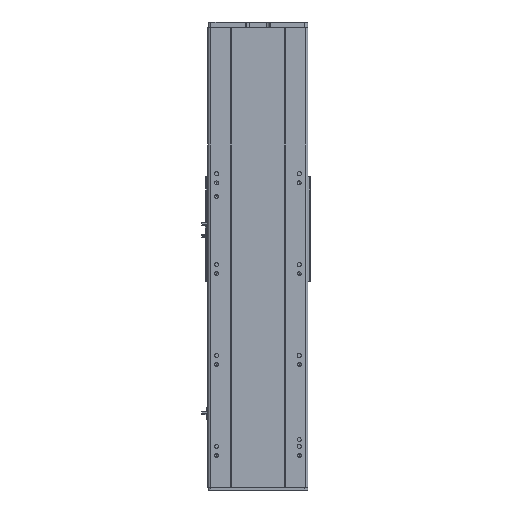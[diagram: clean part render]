
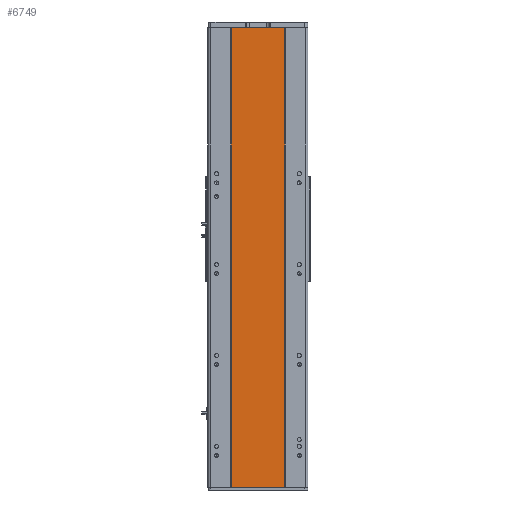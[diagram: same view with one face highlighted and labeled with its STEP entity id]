
A CAD part, front view. The second image highlights one B-rep face of the part: STEP entity #6749.
In plain terms, the highlighted planar face has unit normal (0, -1, 0).
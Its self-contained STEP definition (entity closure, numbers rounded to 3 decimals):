
#85 = VECTOR ( 'NONE', #29625, 1000. ) ;
#2595 = PLANE ( 'NONE',  #33679 ) ;
#2818 = VERTEX_POINT ( 'NONE', #31318 ) ;
#2870 = EDGE_LOOP ( 'NONE', ( #35431, #26564, #24772, #20046 ) ) ;
#2898 = DIRECTION ( 'NONE',  ( 0., 0., -1. ) ) ;
#3167 = LINE ( 'NONE', #17516, #34857 ) ;
#5333 = CARTESIAN_POINT ( 'NONE',  ( 59., 1., 505.5 ) ) ;
#5923 = EDGE_CURVE ( 'NONE', #23184, #10612, #31377, .T. ) ;
#6749 = ADVANCED_FACE ( 'NONE', ( #33930 ), #2595, .F. ) ;
#7013 = CARTESIAN_POINT ( 'NONE',  ( -59., 1., 505.5 ) ) ;
#9375 = CARTESIAN_POINT ( 'NONE',  ( -59., 1., 505.5 ) ) ;
#9680 = DIRECTION ( 'NONE',  ( 1., 0., 0. ) ) ;
#9919 = CARTESIAN_POINT ( 'NONE',  ( -59., 1., -505.5 ) ) ;
#10364 = EDGE_CURVE ( 'NONE', #23184, #2818, #11746, .T. ) ;
#10612 = VERTEX_POINT ( 'NONE', #5333 ) ;
#11746 = LINE ( 'NONE', #25607, #27110 ) ;
#13297 = EDGE_CURVE ( 'NONE', #2818, #35877, #32659, .T. ) ;
#15284 = CARTESIAN_POINT ( 'NONE',  ( 59., 1., -505.5 ) ) ;
#16467 = CARTESIAN_POINT ( 'NONE',  ( -59., 1., 505.5 ) ) ;
#17516 = CARTESIAN_POINT ( 'NONE',  ( 59., 1., 505.5 ) ) ;
#20046 = ORIENTED_EDGE ( 'NONE', *, *, #10364, .T. ) ;
#22246 = DIRECTION ( 'NONE',  ( 0., 1., 0. ) ) ;
#23184 = VERTEX_POINT ( 'NONE', #9375 ) ;
#24772 = ORIENTED_EDGE ( 'NONE', *, *, #5923, .F. ) ;
#25607 = CARTESIAN_POINT ( 'NONE',  ( -59., 1., 505.5 ) ) ;
#26564 = ORIENTED_EDGE ( 'NONE', *, *, #28579, .F. ) ;
#27110 = VECTOR ( 'NONE', #2898, 1000. ) ;
#28579 = EDGE_CURVE ( 'NONE', #10612, #35877, #3167, .T. ) ;
#28716 = VECTOR ( 'NONE', #9680, 1000. ) ;
#29083 = DIRECTION ( 'NONE',  ( 0., 0., -1. ) ) ;
#29625 = DIRECTION ( 'NONE',  ( 1., 0., 0. ) ) ;
#31318 = CARTESIAN_POINT ( 'NONE',  ( -59., 1., -505.5 ) ) ;
#31377 = LINE ( 'NONE', #7013, #28716 ) ;
#32659 = LINE ( 'NONE', #9919, #85 ) ;
#33679 = AXIS2_PLACEMENT_3D ( 'NONE', #16467, #22246, #36149 ) ;
#33930 = FACE_OUTER_BOUND ( 'NONE', #2870, .T. ) ;
#34857 = VECTOR ( 'NONE', #29083, 1000. ) ;
#35431 = ORIENTED_EDGE ( 'NONE', *, *, #13297, .T. ) ;
#35877 = VERTEX_POINT ( 'NONE', #15284 ) ;
#36149 = DIRECTION ( 'NONE',  ( -1., 0., 0. ) ) ;
